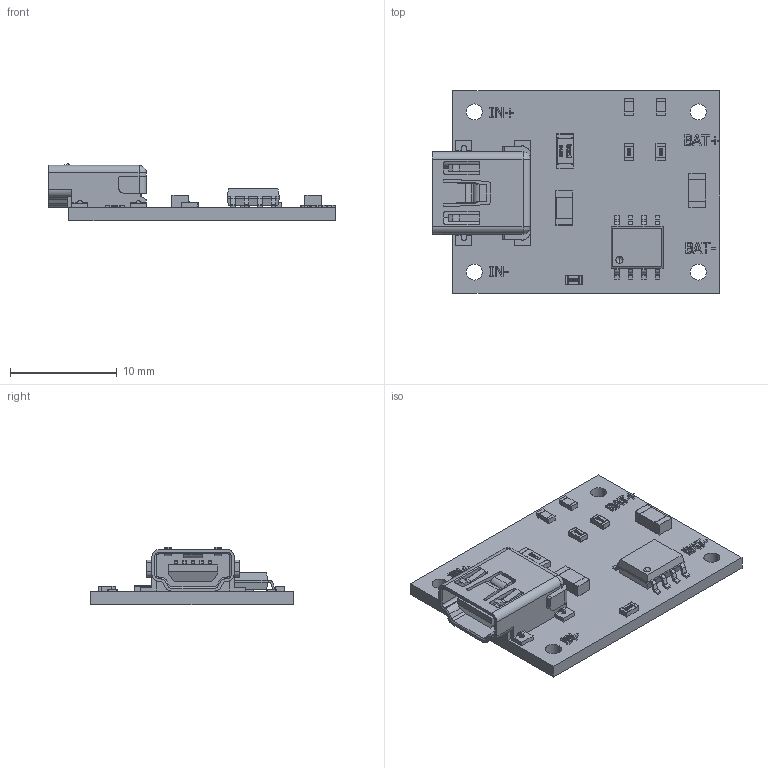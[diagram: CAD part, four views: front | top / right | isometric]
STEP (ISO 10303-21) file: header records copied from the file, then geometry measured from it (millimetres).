
FILE_DESCRIPTION (( 'STEP AP214' ), '1' );
FILE_NAME ('User Library-Module TP4056.STEP', '2020-01-25T11:39:38', ( '' ), ( '' ), 'SwSTEP 2.0', 'SolidWorks 2019', '' );
FILE_SCHEMA (( 'AUTOMOTIVE_DESIGN' ));
Length unit declared in the file: millimetre
Products named in the file (9): Free-Models; CircuitWorks-RESISTOR_0603; User Library-Module TP4056; User_Library-RESC3216X06N; User_Library-SOIC-8-1; User_Library-R_0603; Board; Mini_USB_A_c-1734327-12-a-3d; User_Library-Chip_Cap_MLCC_1206_(3216)_J
Assembly tree (12 placements, depth 3):
  User Library-Module TP4056
    Board
    Free-Models
      User_Library-RESC3216X06N
      User_Library-Chip_Cap_MLCC_1206_(3216)_J  x2
      User_Library-SOIC-8-1
      User_Library-R_0603  x3
      CircuitWorks-RESISTOR_0603  x2
      Mini_USB_A_c-1734327-12-a-3d
Bounding box: 26.93 x 19 x 5.36 mm (x, y, z)
Volume: 805.5 mm3; surface area: 1724.8 mm2
Topology: 20 solids, 20 shells, 1294 faces, 3297 edges, 2074 vertices
Faces by surface type: plane 753, bspline 312, cylinder 221, cone 8
Entity records: 47112 total; most frequent: CARTESIAN_POINT 11800, ORIENTED_EDGE 5382, DIRECTION 3908, EDGE_CURVE 2691, VECTOR 1748, LINE 1748, VERTEX_POINT 1720, EDGE_LOOP 1111
